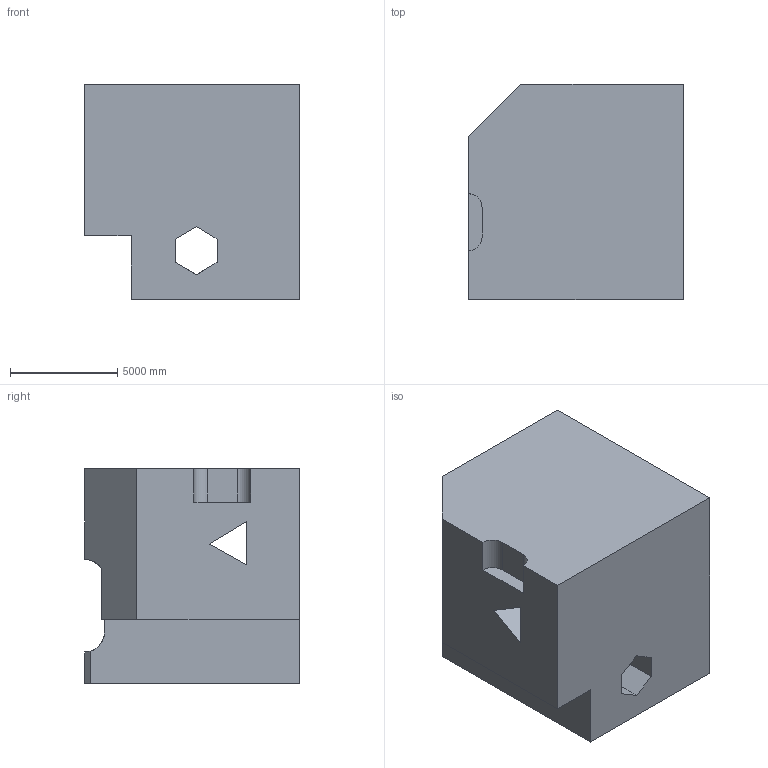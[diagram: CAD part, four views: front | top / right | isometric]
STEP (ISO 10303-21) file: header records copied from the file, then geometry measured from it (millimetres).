
FILE_DESCRIPTION (( 'STEP AP203' ), '1' );
FILE_NAME ('1514.STEP', '2022-08-18T14:57:47', ( 'user' ), ( '' ), 'SwSTEP 2.0', 'SolidWorks 2021', '' );
FILE_SCHEMA (( 'CONFIG_CONTROL_DESIGN' ));
Length unit declared in the file: centimetre
Products named in the file (1): 1514
Bounding box: 10000 x 10000 x 10000 mm (x, y, z)
Volume: 835907502211.9 mm3; surface area: 686884226.5 mm2
Topology: 1 solids, 1 shells, 29 faces, 84 edges, 56 vertices
Faces by surface type: plane 24, cylinder 5
Entity records: 1033 total; most frequent: CARTESIAN_POINT 182, ORIENTED_EDGE 168, DIRECTION 150, EDGE_CURVE 84, LINE 70, VECTOR 70, VERTEX_POINT 56, AXIS2_PLACEMENT_3D 40
